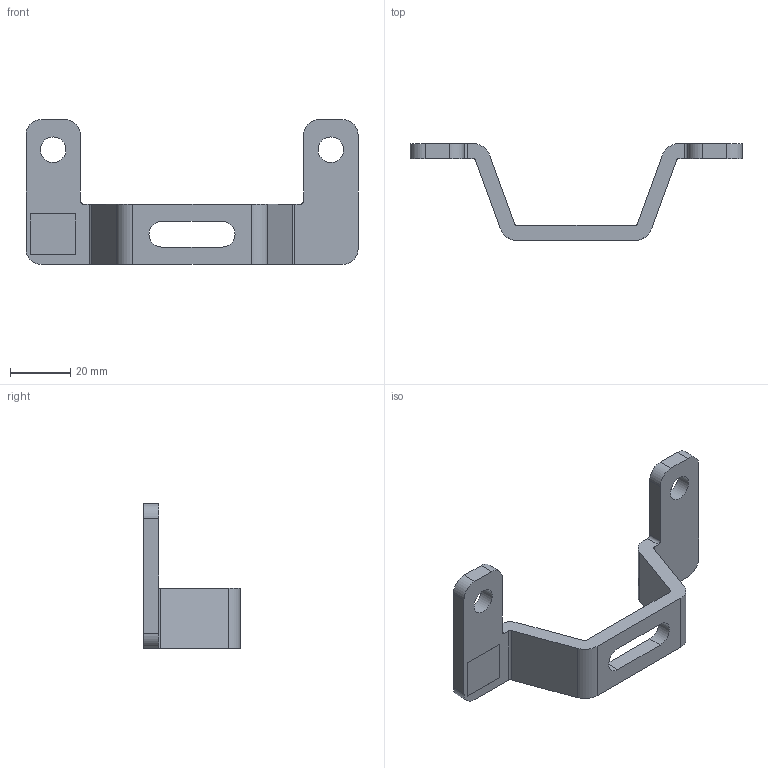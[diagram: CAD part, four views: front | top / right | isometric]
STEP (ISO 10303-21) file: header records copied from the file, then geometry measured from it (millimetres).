
FILE_DESCRIPTION(/* description */ ('Wandwinkel klein'),/* implementation_level */ '2;1');
FILE_NAME(/* name */ 'D:\Public\STP\010330101-TP.stp',/* time_stamp */ '2020-05-14T08:39:51+02:00',/* author */ ('M.Barta'),/* organization */ (''),/* preprocessor_version */ 'ST-DEVELOPER v17.2',/* originating_system */ 'Autodesk Inventor 2019',/* authorisation */ '');
FILE_SCHEMA (('AUTOMOTIVE_DESIGN { 1 0 10303 214 3 1 1 }'));
Length unit declared in the file: millimetre
Products named in the file (1): 010330101
Bounding box: 110 x 32 x 48 mm (x, y, z)
Volume: 17723.3 mm3; surface area: 9837.1 mm2
Topology: 1 solids, 1 shells, 53 faces, 136 edges, 86 vertices
Faces by surface type: plane 33, cylinder 20
Full cylindrical faces by diameter (mm): 8.5 x2
Entity records: 1653 total; most frequent: DIRECTION 286, CARTESIAN_POINT 276, ORIENTED_EDGE 272, EDGE_CURVE 136, AXIS2_PLACEMENT_3D 96, LINE 94, VECTOR 94, VERTEX_POINT 86
